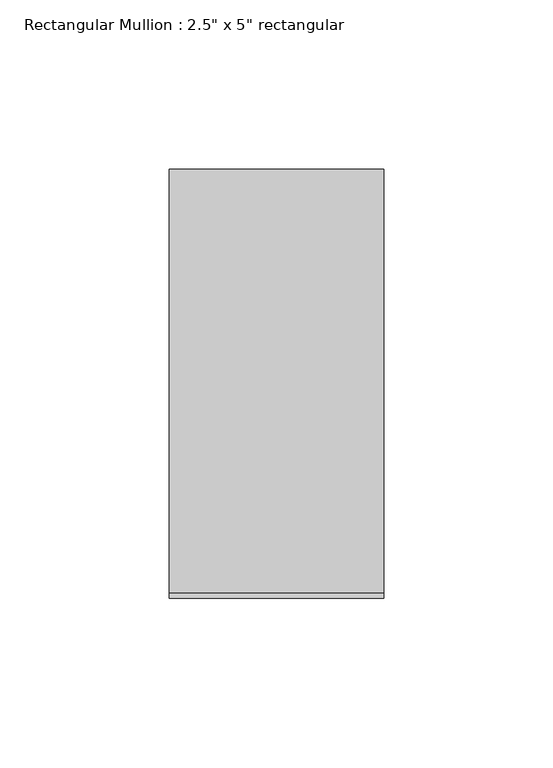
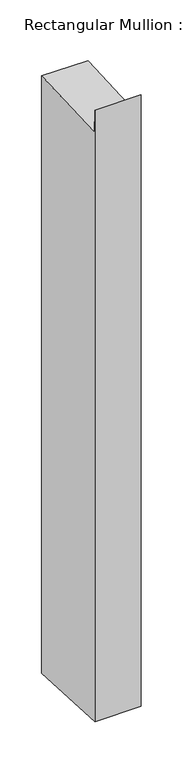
"""IFC4 building model written with IfcOpenShell, lengths in millimetres: member geometry."""

from ifc_helpers import new_model, si_unit, frame, origin, place, context, project, spatial, polyline, outline, extrude, source, transform, mapped, element, save


def member_a499538e(model_context):
    return source(origin(), model_context, "Body", "SweptSolid", [
        extrude(outline(polyline([(-63.5, 30.1696873), (-61.8420563, -3.1193645), (63.5, 3.1232308), (63.5, -865.6317998), (-63.5, -859.3066315), (-63.5, 30.1696873)])), frame((-63.5, 0.0, 0.0), z_axis=(1.0, 0.0, 0.0), x_axis=(0.0, 1.0, 0.0)), (0.0, 0.0, 1.0), 63.5),
    ])


if __name__ == "__main__":
    model = new_model("IFC4")
    model_context = context("Model", 3, world=origin())
    ifc_project = project(units=[si_unit("LENGTHUNIT", "METRE", prefix="MILLI")], contexts=[model_context])
    site = spatial("IfcSite", under=ifc_project)
    building = spatial("IfcBuilding", under=site)
    placement = place(None, origin())
    member_shape = member_a499538e(model_context)
    element("IfcMember", 1, ObjectType="Rectangular Mullion : 2.5\" x 5\" rectangular", at=placement, inside=building, context=model_context, shape_type="MappedRepresentation", body=[
        mapped(member_shape, transform((0.0, 0.0, 0.0), x_axis=(1.0, 0.0, 0.0), y_axis=(0.0, 1.0, 0.0), z_axis=(0.0, 0.0, 1.0))),
    ])
    save(model, "model.ifc")
